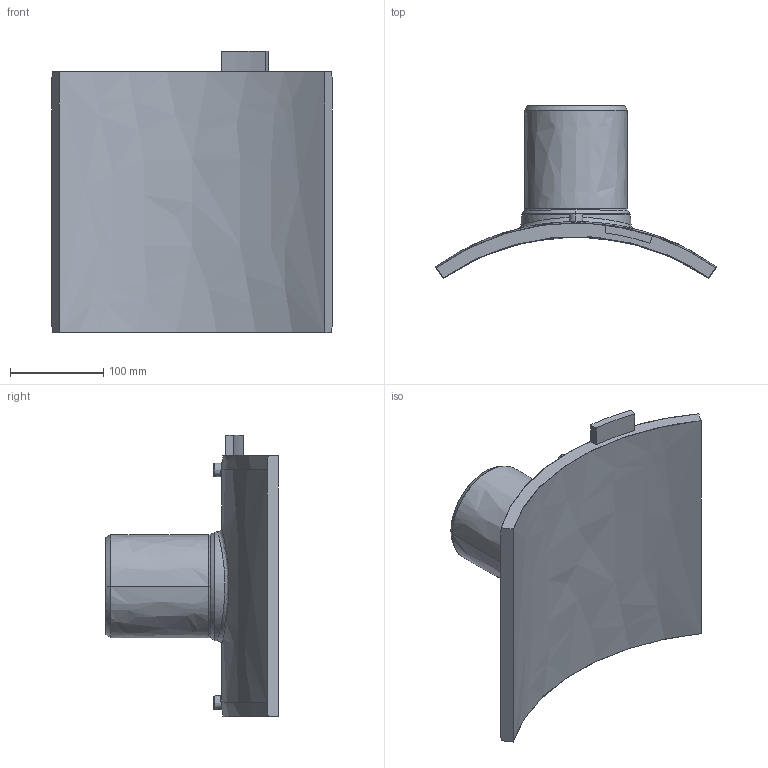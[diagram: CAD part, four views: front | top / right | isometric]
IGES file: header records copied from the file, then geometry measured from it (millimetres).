
Start section:  PTC IGES file: sa-uni_d500_110_01.igs
Global section: file name: sa-uni_d500_110_01.igs; native system: Pro/ENGINEER by Parametric Technology Corporation; preprocessor: 2011490; author: MikulicP; organization: Unknown; date: 20170206.134522; units: millimetre
Bounding box: 300.53 x 184.32 x 301 mm (x, y, z)
Surface area: 280035.1 mm2 (no closed solid volume)
Topology: 0 solids, 0 shells, 200 faces, 984 edges, 984 vertices
Faces by surface type: bspline 200
